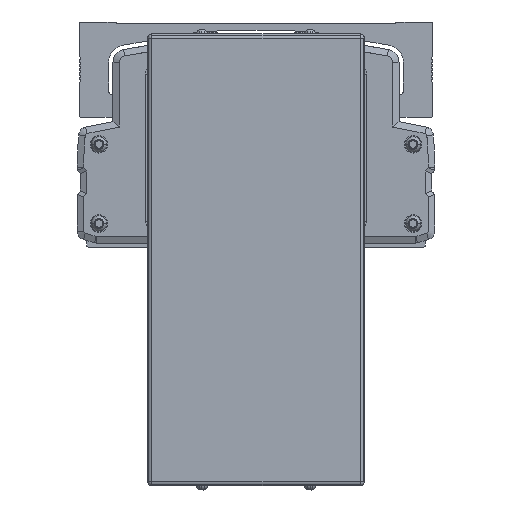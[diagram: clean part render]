
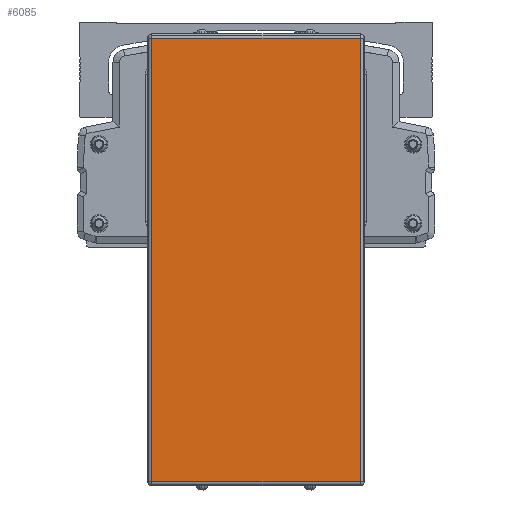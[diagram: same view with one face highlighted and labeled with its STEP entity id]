
A CAD part, front view. The second image highlights one B-rep face of the part: STEP entity #6085.
In plain terms, the highlighted planar face has unit normal (0, -1, 0).
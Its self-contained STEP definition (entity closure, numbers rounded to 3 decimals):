
#6085=ADVANCED_FACE('',(#12519),#12520,.T.);
#12519=FACE_OUTER_BOUND('',#21316,.T.);
#12520=PLANE('',#21317);
#21316=EDGE_LOOP('',(#39382,#39383,#39384,#39385));
#21317=AXIS2_PLACEMENT_3D('',#39386,#39387,#39388);
#39382=ORIENTED_EDGE('',*,*,#44191,.F.);
#39383=ORIENTED_EDGE('',*,*,#49369,.F.);
#39384=ORIENTED_EDGE('',*,*,#46294,.F.);
#39385=ORIENTED_EDGE('',*,*,#46607,.F.);
#39386=CARTESIAN_POINT('',(-600.,77.222,-57.8));
#39387=DIRECTION('',(0.,-1.0,0.));
#39388=DIRECTION('',(0.,0.,-1.0));
#44191=EDGE_CURVE('',#53494,#53496,#53497,.T.);
#46294=EDGE_CURVE('',#56747,#54446,#56749,.T.);
#46607=EDGE_CURVE('',#53496,#56747,#57186,.T.);
#49369=EDGE_CURVE('',#54446,#53494,#60702,.T.);
#53494=VERTEX_POINT('',#66451);
#53496=VERTEX_POINT('',#66453);
#53497=LINE('',#66454,#66455);
#54446=VERTEX_POINT('',#67992);
#56747=VERTEX_POINT('',#71552);
#56749=LINE('',#71554,#71555);
#57186=LINE('',#72184,#72185);
#60702=LINE('',#77454,#77455);
#66451=CARTESIAN_POINT('',(-648.,77.222,44.5));
#66453=CARTESIAN_POINT('',(-552.,77.222,44.5));
#66454=CARTESIAN_POINT('',(-600.,77.222,44.5));
#66455=VECTOR('',#80841,10.0);
#67992=CARTESIAN_POINT('',(-648.,77.222,-160.1));
#71552=CARTESIAN_POINT('',(-552.,77.222,-160.1));
#71554=CARTESIAN_POINT('',(-600.,77.222,-160.1));
#71555=VECTOR('',#83350,10.0);
#72184=CARTESIAN_POINT('',(-552.,77.222,-57.8));
#72185=VECTOR('',#83702,10.0);
#77454=CARTESIAN_POINT('',(-648.,77.222,-57.8));
#77455=VECTOR('',#86573,10.0);
#80841=DIRECTION('',(1.0,0.,0.));
#83350=DIRECTION('',(-1.0,0.,0.));
#83702=DIRECTION('',(0.,0.,-1.0));
#86573=DIRECTION('',(0.,0.,1.0));
